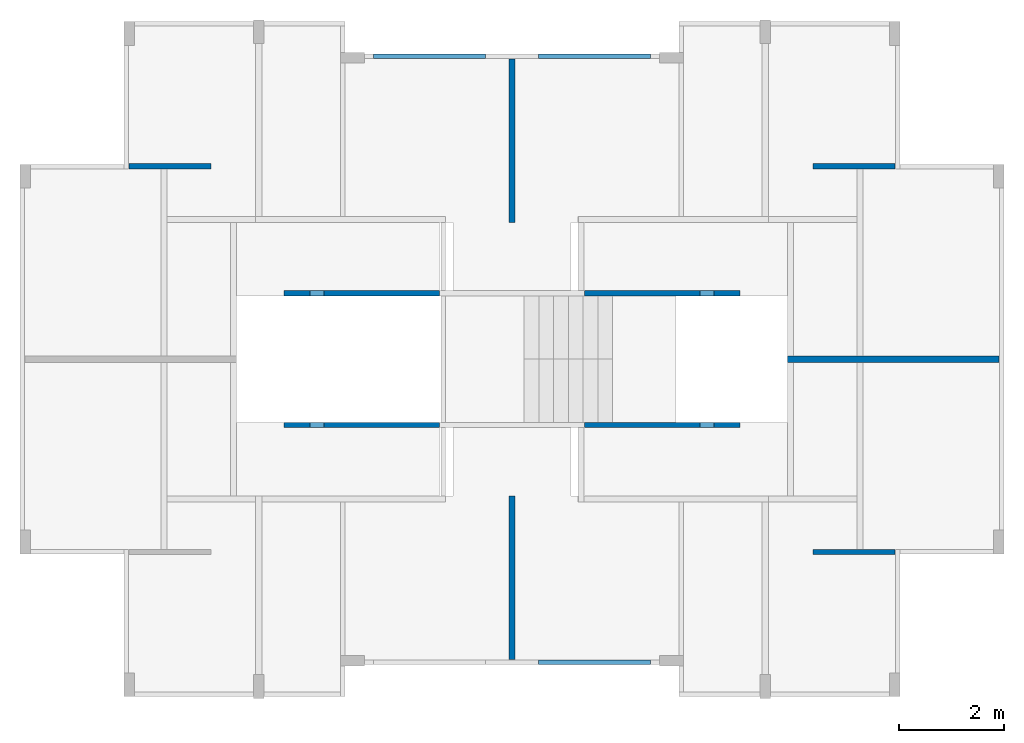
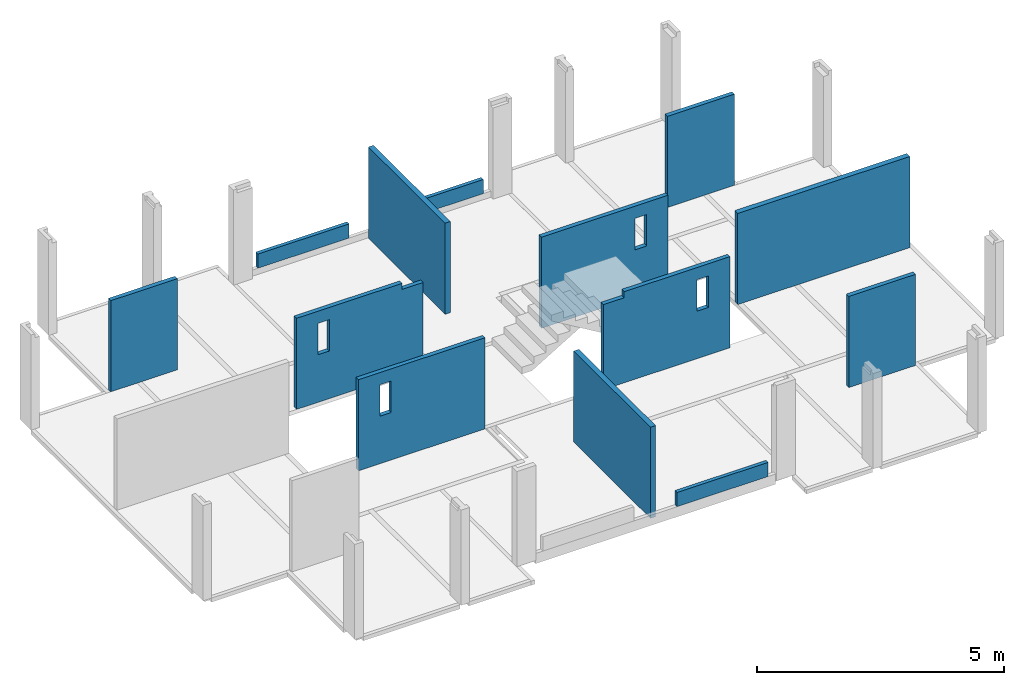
# One storey, part 4 of 6: 13 walls, 6 openings.
"""IFC4 building model written with IfcOpenShell, lengths in metres."""

from ifc_helpers import new_model, entity, si_unit, converted_unit, derived_unit, direction, frame, origin, place, context, subcontext, project, spatial, indexed_curve, outline, extrude, polygons, material, type_object, element, save


model = new_model("IFC4")

# Units and contexts
model_context = context("Model", 3, precision=1e-05, world=origin(), true_north=direction((6.123031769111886e-17, 1.0)))
body_context = subcontext(model_context, "Body", "Model", "MODEL_VIEW")
ifc_project = project(units=[si_unit("LENGTHUNIT", "METRE"), si_unit("AREAUNIT", "SQUARE_METRE"), si_unit("VOLUMEUNIT", "CUBIC_METRE"), converted_unit("PLANEANGLEUNIT", "DEGREE", entity("IfcRatioMeasure", 0.017453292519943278), si_unit("PLANEANGLEUNIT", "RADIAN"), dimensions=[0, 0, 0, 0, 0, 0, 0]), si_unit("MASSUNIT", "GRAM", prefix="KILO"), derived_unit("MASSDENSITYUNIT", [(si_unit("MASSUNIT", "GRAM", prefix="KILO"), 1), (si_unit("LENGTHUNIT", "METRE"), -3)]), derived_unit("IONCONCENTRATIONUNIT", [(si_unit("MASSUNIT", "GRAM", prefix="KILO"), 1), (si_unit("LENGTHUNIT", "METRE"), -3)]), derived_unit("MOMENTOFINERTIAUNIT", [(si_unit("LENGTHUNIT", "METRE"), 4)]), si_unit("TIMEUNIT", "SECOND"), si_unit("FREQUENCYUNIT", "HERTZ"), si_unit("THERMODYNAMICTEMPERATUREUNIT", "DEGREE_CELSIUS"), derived_unit("THERMALTRANSMITTANCEUNIT", [(si_unit("MASSUNIT", "GRAM", prefix="KILO"), 1), (si_unit("THERMODYNAMICTEMPERATUREUNIT", "KELVIN"), -1), (si_unit("TIMEUNIT", "SECOND"), -3)]), derived_unit("THERMALCONDUCTANCEUNIT", [(si_unit("MASSUNIT", "GRAM", prefix="KILO"), 1), (si_unit("THERMODYNAMICTEMPERATUREUNIT", "KELVIN"), -1), (si_unit("TIMEUNIT", "SECOND"), -3), (si_unit("LENGTHUNIT", "METRE"), 1)]), derived_unit("VOLUMETRICFLOWRATEUNIT", [(si_unit("LENGTHUNIT", "METRE"), 3), (si_unit("TIMEUNIT", "SECOND"), -1)]), derived_unit("MASSFLOWRATEUNIT", [(si_unit("MASSUNIT", "GRAM", prefix="KILO"), 1), (si_unit("TIMEUNIT", "SECOND"), -1)]), derived_unit("ROTATIONALFREQUENCYUNIT", [(si_unit("TIMEUNIT", "SECOND"), -1)]), si_unit("ELECTRICCURRENTUNIT", "AMPERE"), si_unit("ELECTRICVOLTAGEUNIT", "VOLT"), si_unit("POWERUNIT", "WATT"), si_unit("FORCEUNIT", "NEWTON", prefix="KILO"), si_unit("ILLUMINANCEUNIT", "LUX"), si_unit("LUMINOUSFLUXUNIT", "LUMEN"), si_unit("LUMINOUSINTENSITYUNIT", "CANDELA"), derived_unit("USERDEFINED", [(si_unit("MASSUNIT", "GRAM", prefix="KILO"), -1), (si_unit("LENGTHUNIT", "METRE"), -2), (si_unit("TIMEUNIT", "SECOND"), 3), (si_unit("LUMINOUSFLUXUNIT", "LUMEN"), 1)]), derived_unit("USERDEFINED", [(si_unit("MASSUNIT", "GRAM", prefix="KILO"), 1), (si_unit("TIMEUNIT", "SECOND"), -3), (si_unit("LENGTHUNIT", "METRE"), 3), (si_unit("ELECTRICCURRENTUNIT", "AMPERE"), -2)]), derived_unit("SOUNDPOWERUNIT", [(si_unit("MASSUNIT", "GRAM", prefix="KILO"), 1), (si_unit("TIMEUNIT", "SECOND"), -3), (si_unit("LENGTHUNIT", "METRE"), 2)]), derived_unit("SOUNDPRESSUREUNIT", [(si_unit("MASSUNIT", "GRAM", prefix="KILO"), 1), (si_unit("LENGTHUNIT", "METRE"), -1), (si_unit("TIMEUNIT", "SECOND"), -2)]), derived_unit("LINEARVELOCITYUNIT", [(si_unit("LENGTHUNIT", "METRE"), 1), (si_unit("TIMEUNIT", "SECOND"), -1)]), si_unit("PRESSUREUNIT", "PASCAL"), derived_unit("USERDEFINED", [(si_unit("MASSUNIT", "GRAM", prefix="KILO"), 1), (si_unit("LENGTHUNIT", "METRE"), -2), (si_unit("TIMEUNIT", "SECOND"), -2)]), derived_unit("LINEARFORCEUNIT", [(si_unit("MASSUNIT", "GRAM", prefix="KILO"), 1), (si_unit("TIMEUNIT", "SECOND"), -2)]), derived_unit("PLANARFORCEUNIT", [(si_unit("MASSUNIT", "GRAM", prefix="KILO"), 1), (si_unit("LENGTHUNIT", "METRE"), -1), (si_unit("TIMEUNIT", "SECOND"), -2)]), derived_unit("SPECIFICHEATCAPACITYUNIT", [(si_unit("THERMODYNAMICTEMPERATUREUNIT", "KELVIN"), -1), (si_unit("LENGTHUNIT", "METRE"), 2), (si_unit("TIMEUNIT", "SECOND"), -2)]), derived_unit("HEATINGVALUEUNIT", [(si_unit("LENGTHUNIT", "METRE"), 2), (si_unit("TIMEUNIT", "SECOND"), -2)]), derived_unit("VAPORPERMEABILITYUNIT", [(si_unit("LENGTHUNIT", "METRE"), -1), (si_unit("TIMEUNIT", "SECOND"), 1)]), derived_unit("DYNAMICVISCOSITYUNIT", [(si_unit("MASSUNIT", "GRAM", prefix="KILO"), 1), (si_unit("TIMEUNIT", "SECOND"), -1), (si_unit("LENGTHUNIT", "METRE"), -1)]), derived_unit("THERMALEXPANSIONCOEFFICIENTUNIT", [(si_unit("THERMODYNAMICTEMPERATUREUNIT", "KELVIN"), -1)]), derived_unit("MODULUSOFELASTICITYUNIT", [(si_unit("MASSUNIT", "GRAM", prefix="KILO"), 1), (si_unit("LENGTHUNIT", "METRE"), -1), (si_unit("TIMEUNIT", "SECOND"), -2)]), derived_unit("ISOTHERMALMOISTURECAPACITYUNIT", [(si_unit("LENGTHUNIT", "METRE"), 3), (si_unit("MASSUNIT", "GRAM", prefix="KILO"), -1)]), derived_unit("MOISTUREDIFFUSIVITYUNIT", [(si_unit("TIMEUNIT", "SECOND"), -1), (si_unit("LENGTHUNIT", "METRE"), 2)])], contexts=[model_context])

# Site, building, storey
site_placement = place(None, origin())
site = spatial("IfcSite", under=ifc_project, at=site_placement, Name="Default", CompositionType="ELEMENT")
building_placement = place(site_placement, origin())
building = spatial("IfcBuilding", under=site, at=building_placement, Name="Las nubes", CompositionType="ELEMENT")
storey_placement = place(building_placement, frame((0.0, 0.0, 4.700000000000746)))
storey = spatial("IfcBuildingStorey", under=building, at=storey_placement, Name="PISO 3", CompositionType="ELEMENT", Elevation=4.700000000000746)

# Walls
ifc_material_1 = material(Name="Concrete - Cast-in-Place Concrete - 35 MPa", Category="Materials")
wall_type_1 = type_object("IfcWallType", Name="Basic Wall:MURO 12cm", PredefinedType="STANDARD")
wall_1_placement = place(storey_placement, frame((9.322500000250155, -12.129999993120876, 0.0), z_axis=(0.0, 0.0, 1.0), x_axis=(0.0, 1.0, 0.0)))
element("IfcWall", 1, at=wall_1_placement, inside=storey, type_object=wall_type_1, material=ifc_material_1, Name="Basic Wall:MURO 12cm", ObjectType="Basic Wall:MURO 12cm", PredefinedType="NOTDEFINED", context=body_context, shape_type="SweptSolid", body=[
    extrude(outline(indexed_curve([(3.1050000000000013, 0.060000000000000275), (-1.0151879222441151e-16, 0.060000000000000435), (1.0151879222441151e-16, -0.060000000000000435), (3.1050000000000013, -0.0600000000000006), (3.1050000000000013, 0.060000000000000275)], self_intersect=False)), origin(), (0.0, 0.0, 1.0), 2.2499999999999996),
])
wall_2_placement = place(storey_placement, frame((9.322500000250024, -0.7200000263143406, 0.0), z_axis=(0.0, 0.0, 1.0), x_axis=(0.0, -1.0, 0.0)))
element("IfcWall", 2, at=wall_2_placement, inside=storey, type_object=wall_type_1, material=ifc_material_1, Name="Basic Wall:MURO 12cm", ObjectType="Basic Wall:MURO 12cm", PredefinedType="NOTDEFINED", context=body_context, shape_type="SweptSolid", body=[
    extrude(outline(indexed_curve([(3.105000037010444, 0.06000000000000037), (3.198205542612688e-17, 0.060000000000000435), (-3.198205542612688e-17, -0.060000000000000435), (3.105000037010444, -0.060000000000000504), (3.105000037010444, 0.06000000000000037)], self_intersect=False)), origin(), (0.0, 0.0, 1.0), 2.2499999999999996),
])
wall_3_placement = place(storey_placement, frame((18.57750000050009, -6.425000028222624, 0.0), z_axis=(0.0, 0.0, 1.0), x_axis=(-1.0, 0.0, 0.0)))
element("IfcWall", 3, at=wall_3_placement, inside=storey, type_object=wall_type_1, material=ifc_material_1, Name="Basic Wall:MURO 12cm", ObjectType="Basic Wall:MURO 12cm", PredefinedType="NOTDEFINED", context=body_context, shape_type="SweptSolid", body=[
    extrude(outline(indexed_curve([(4.01999999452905, 0.06000000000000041), (-1.934650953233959e-16, 0.060000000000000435), (1.934650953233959e-16, -0.060000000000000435), (4.01999999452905, -0.06000000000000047), (4.01999999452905, 0.06000000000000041)], self_intersect=False)), origin(), (0.0, 0.0, 1.0), 2.2499999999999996),
])
wall_type_2 = type_object("IfcWallType", Name="Basic Wall:MURO 10cm", PredefinedType="STANDARD")
wall_4_placement = place(storey_placement, frame((15.04250000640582, -10.090000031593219, 0.0)))
element("IfcWall", 4, at=wall_4_placement, inside=storey, type_object=wall_type_2, material=ifc_material_1, Name="Basic Wall:MURO 10cm", ObjectType="Basic Wall:MURO 10cm", PredefinedType="NOTDEFINED", context=body_context, shape_type="SweptSolid", body=[
    extrude(outline(indexed_curve([(1.5599999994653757, 0.049999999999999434), (-1.3794485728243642e-16, 0.04999999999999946), (1.3794485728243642e-16, -0.04999999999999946), (1.5599999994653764, -0.04999999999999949), (1.5599999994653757, 0.049999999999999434)], self_intersect=False)), origin(), (0.0, 0.0, 1.0), 2.2499999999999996),
])
wall_5_placement = place(storey_placement, frame((15.042500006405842, -2.7600000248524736, 0.0)))
element("IfcWall", 5, at=wall_5_placement, inside=storey, type_object=wall_type_2, material=ifc_material_1, Name="Basic Wall:MURO 10cm", ObjectType="Basic Wall:MURO 10cm", PredefinedType="NOTDEFINED", context=body_context, shape_type="SweptSolid", body=[
    extrude(outline(indexed_curve([(1.5600000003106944, 0.05), (-1.5618275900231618e-16, 0.05), (1.5618275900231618e-16, -0.05), (1.5600000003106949, -0.05), (1.5600000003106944, 0.05)], self_intersect=False)), origin(), (0.0, 0.0, 1.0), 2.2499999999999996),
])

# Wall, opening
wall_6_placement = place(storey_placement, frame((13.657500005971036, -5.17500002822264, 0.0), z_axis=(0.0, 0.0, 1.0), x_axis=(-1.0, 0.0, 0.0)))
wall_6 = element("IfcWall", 6, at=wall_6_placement, inside=storey, type_object=wall_type_2, material=ifc_material_1, Name="Basic Wall:MURO 10cm", ObjectType="Basic Wall:MURO 10cm", PredefinedType="NOTDEFINED", context=body_context, shape_type="Tessellation", body=[
    polygons([(4.2325258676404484e-16, -0.04999999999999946, 0.0), (2.455000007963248, -0.04999999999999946, 0.0), (2.955000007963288, -0.04999999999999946, 0.0), (2.955000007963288, -0.04999999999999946, 2.100000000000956), (2.955000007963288, -0.04999999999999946, 2.2499999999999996), (2.46500000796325, -0.04999999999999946, 2.2499999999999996), (4.2325258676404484e-16, -0.04999999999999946, 2.2499999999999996), (0.7651124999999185, -0.04999999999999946, 1.173712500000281), (0.4999999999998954, -0.04999999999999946, 1.173712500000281), (0.4999999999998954, -0.04999999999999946, 1.9500000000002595), (0.7651124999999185, -0.04999999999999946, 1.9500000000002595), (9.344534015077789e-17, 0.050000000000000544, 0.0), (9.344534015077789e-17, 0.050000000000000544, 2.2499999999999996), (2.4650000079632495, 0.050000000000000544, 2.2499999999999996), (2.9550000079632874, 0.050000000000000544, 2.2499999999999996), (2.9550000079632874, 0.050000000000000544, 2.100000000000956), (2.9550000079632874, 0.050000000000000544, 0.0), (2.4550000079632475, 0.050000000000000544, 0.0), (0.7651124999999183, 0.050000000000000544, 1.173712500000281), (0.7651124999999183, 0.050000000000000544, 1.9500000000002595), (0.4999999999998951, 0.050000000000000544, 1.9500000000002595), (0.4999999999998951, 0.050000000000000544, 1.173712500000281)], [[[1, 2, 3, 4, 5, 6, 7], [8, 9, 10, 11]], [[12, 13, 14, 15, 16, 17, 18], [19, 20, 21, 22]], [[3, 2, 1, 12, 18, 17]], [[5, 4, 3, 17, 16, 15]], [[7, 6, 5, 15, 14, 13]], [[1, 7, 13, 12]], [[9, 8, 19, 22]], [[10, 9, 22, 21]], [[11, 10, 21, 20]], [[8, 11, 20, 19]]], closed=True),
])
opening_1_placement = place(wall_6_placement, origin())
element("IfcOpeningElement", 7, at=opening_1_placement, cuts=wall_6, Name="Basic Wall:MURO 10cm", PredefinedType="OPENING", context=body_context, shape_type="SweptSolid", body=[
    extrude(outline(indexed_curve([(-0.3881437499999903, -0.1325562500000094), (0.3881437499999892, -0.1325562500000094), (0.3881437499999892, 0.13255625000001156), (-0.3881437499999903, 0.13255625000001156), (-0.3881437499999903, -0.1325562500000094)], self_intersect=False)), frame((0.6325562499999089, 0.04999999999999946, 1.5618562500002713), z_axis=(0.0, -1.0, 0.0), x_axis=(0.0, 0.0, 1.0)), (0.0, 0.0, 1.0), 0.1),
])

# Wall
wall_7_placement = place(storey_placement, frame((3.6024999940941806, -2.7600000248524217, 0.0), z_axis=(0.0, 0.0, 1.0), x_axis=(-1.0, 0.0, 0.0)))
element("IfcWall", 8, at=wall_7_placement, inside=storey, type_object=wall_type_2, material=ifc_material_1, Name="Basic Wall:MURO 10cm", ObjectType="Basic Wall:MURO 10cm", PredefinedType="NOTDEFINED", context=body_context, shape_type="SweptSolid", body=[
    extrude(outline(indexed_curve([(1.5600000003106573, 0.05), (-1.5618275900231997e-16, 0.05), (1.5618275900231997e-16, -0.05), (1.5600000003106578, -0.05), (1.5600000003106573, 0.05)], self_intersect=False)), origin(), (0.0, 0.0, 1.0), 2.2499999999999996),
])

# Wall, opening
wall_8_placement = place(storey_placement, frame((7.942500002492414, -7.675000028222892, 0.0), z_axis=(0.0, 0.0, 1.0), x_axis=(-1.0, 0.0, 0.0)))
wall_8 = element("IfcWall", 9, at=wall_8_placement, inside=storey, type_object=wall_type_2, material=ifc_material_1, Name="Basic Wall:MURO 10cm", ObjectType="Basic Wall:MURO 10cm", PredefinedType="NOTDEFINED", context=body_context, shape_type="Tessellation", body=[
    polygons([(3.4812988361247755e-16, -0.050000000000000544, 0.0), (0.5000000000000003, -0.050000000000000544, 0.0), (2.9550000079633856, -0.050000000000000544, 0.0), (2.9550000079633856, -0.050000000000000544, 2.2499999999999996), (0.4899999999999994, -0.050000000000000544, 2.2499999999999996), (3.4812988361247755e-16, -0.050000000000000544, 2.2499999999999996), (3.4812988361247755e-16, -0.050000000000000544, 2.100000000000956), (2.4550000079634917, -0.050000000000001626, 1.173712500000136), (2.189887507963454, -0.050000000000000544, 1.173712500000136), (2.189887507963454, -0.050000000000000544, 1.9500000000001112), (2.4550000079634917, -0.050000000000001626, 1.9500000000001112), (4.947108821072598e-16, 0.050000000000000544, 0.0), (4.94710882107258e-16, 0.04999999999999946, 2.100000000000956), (4.947108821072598e-16, 0.050000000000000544, 2.2499999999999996), (0.4900000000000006, 0.04999999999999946, 2.2499999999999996), (2.9550000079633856, 0.04999999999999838, 2.2499999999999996), (2.9550000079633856, 0.04999999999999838, 0.0), (0.5000000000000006, 0.04999999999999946, 0.0), (2.4550000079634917, 0.04999999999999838, 1.173712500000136), (2.4550000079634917, 0.04999999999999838, 1.9500000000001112), (2.1898875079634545, 0.04999999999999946, 1.9500000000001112), (2.1898875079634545, 0.04999999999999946, 1.173712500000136)], [[[1, 2, 3, 4, 5, 6, 7], [8, 9, 10, 11]], [[12, 13, 14, 15, 16, 17, 18], [19, 20, 21, 22]], [[3, 2, 1, 12, 18, 17]], [[4, 3, 17, 16]], [[6, 5, 4, 16, 15, 14]], [[1, 7, 6, 14, 13, 12]], [[9, 8, 19, 22]], [[10, 9, 22, 21]], [[11, 10, 21, 20]], [[8, 11, 20, 19]]], closed=True),
])
opening_2_placement = place(wall_8_placement, origin())
element("IfcOpeningElement", 10, at=opening_2_placement, cuts=wall_8, Name="Basic Wall:MURO 10cm", PredefinedType="OPENING", context=body_context, shape_type="SweptSolid", body=[
    extrude(outline(indexed_curve([(-0.38814374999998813, -0.13255625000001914), (0.388143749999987, -0.13255625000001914), (0.388143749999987, 0.13255625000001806), (-0.38814374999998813, 0.13255625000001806), (-0.38814374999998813, -0.13255625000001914)], self_intersect=False)), frame((2.3224437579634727, 0.050000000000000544, 1.561856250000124), z_axis=(0.0, -1.0, 0.0), x_axis=(0.0, 0.0, 1.0)), (0.0, 0.0, 1.0), 0.1),
])

# Wall, openings
wall_9_placement = place(storey_placement, frame((7.942500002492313, -5.175000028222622, 0.0), z_axis=(0.0, 0.0, 1.0), x_axis=(-1.0, 0.0, 0.0)))
wall_9 = element("IfcWall", 11, at=wall_9_placement, inside=storey, type_object=wall_type_2, material=ifc_material_1, Name="Basic Wall:MURO 10cm", ObjectType="Basic Wall:MURO 10cm", PredefinedType="NOTDEFINED", context=body_context, shape_type="Tessellation", body=[
    polygons([(2.9550000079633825, -0.04999999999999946, 2.2499999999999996), (0.4900000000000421, -0.04999999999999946, 2.2499999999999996), (0.4900000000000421, -0.04999999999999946, 2.099999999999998), (8.00730484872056e-16, -0.04999999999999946, 2.099999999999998), (8.00730484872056e-16, -0.04999999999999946, 0.0), (0.49999999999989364, -0.04999999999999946, 0.0), (2.9550000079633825, -0.04999999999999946, 0.0), (2.4550000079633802, -0.04999999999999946, 1.173712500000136), (2.1898875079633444, -0.04999999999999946, 1.173712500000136), (2.1898875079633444, -0.04999999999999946, 1.9500000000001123), (2.4550000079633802, -0.04999999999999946, 1.9500000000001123), (2.9550000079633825, 0.050000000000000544, 2.2499999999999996), (2.9550000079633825, 0.050000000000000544, 0.0), (0.4999999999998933, 0.050000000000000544, 0.0), (4.78288660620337e-16, 0.050000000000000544, 0.0), (4.78288660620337e-16, 0.050000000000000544, 2.099999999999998), (0.4900000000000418, 0.050000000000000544, 2.099999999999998), (0.4900000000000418, 0.050000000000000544, 2.2499999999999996), (2.4550000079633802, 0.050000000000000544, 1.173712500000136), (2.4550000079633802, 0.050000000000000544, 1.9500000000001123), (2.189887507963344, 0.050000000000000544, 1.9500000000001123), (2.189887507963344, 0.050000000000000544, 1.173712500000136)], [[[1, 2, 3, 4, 5, 6, 7], [8, 9, 10, 11]], [[12, 13, 14, 15, 16, 17, 18], [19, 20, 21, 22]], [[2, 1, 12, 18]], [[4, 3, 17, 16]], [[3, 2, 18, 17]], [[1, 7, 13, 12]], [[5, 4, 16, 15]], [[7, 6, 5, 15, 14, 13]], [[9, 8, 19, 22]], [[10, 9, 22, 21]], [[11, 10, 21, 20]], [[8, 11, 20, 19]]], closed=True),
])
opening_3_placement = place(wall_9_placement, origin())
element("IfcOpeningElement", 12, at=opening_3_placement, cuts=wall_9, Name="Basic Wall:MURO 10cm", PredefinedType="OPENING", context=body_context, shape_type="SweptSolid", body=[
    extrude(outline(indexed_curve([(-0.38814374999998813, -0.13255625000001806), (0.38814374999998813, -0.13255625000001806), (0.38814374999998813, 0.13255625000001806), (-0.38814374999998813, 0.13255625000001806), (-0.38814374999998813, -0.13255625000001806)], self_intersect=False)), frame((2.322443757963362, 0.050000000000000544, 1.561856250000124), z_axis=(0.0, -1.0, 0.0), x_axis=(0.0, 0.0, 1.0)), (0.0, 0.0, 1.0), 0.1),
])
opening_4_placement = place(wall_9_placement, origin())
element("IfcOpeningElement", 13, at=opening_4_placement, cuts=wall_9, Name="Basic Wall:MURO 10cm", PredefinedType="OPENING", context=body_context, shape_type="SweptSolid", body=[
    extrude(outline(indexed_curve([(-0.2450000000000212, -0.07500000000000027), (0.2450000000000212, -0.07500000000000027), (0.2450000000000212, 0.07500000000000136), (-0.2450000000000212, 0.07500000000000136), (-0.2450000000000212, -0.07500000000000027)], self_intersect=False)), frame((0.2450000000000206, 0.04999999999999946, 2.1749999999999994), z_axis=(0.0, -1.0, 0.0), x_axis=(-1.0, 0.0, 0.0)), (0.0, 0.0, 1.0), 0.1),
])

wall_10_placement = place(storey_placement, frame((10.702499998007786, -7.675000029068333, 0.0)))
wall_10 = element("IfcWall", 14, at=wall_10_placement, inside=storey, type_object=wall_type_2, material=ifc_material_1, Name="Basic Wall:MURO 10cm", ObjectType="Basic Wall:MURO 10cm", PredefinedType="NOTDEFINED", context=body_context, shape_type="Tessellation", body=[
    polygons([(2.9550000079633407, -0.050000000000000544, 2.2499999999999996), (0.4900000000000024, -0.050000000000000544, 2.2499999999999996), (0.4900000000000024, -0.050000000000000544, 2.099999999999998), (1.159822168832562e-15, -0.050000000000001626, 2.099999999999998), (1.159822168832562e-15, -0.050000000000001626, 0.0), (2.9550000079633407, -0.050000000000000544, 0.0), (2.1898875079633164, -0.04999999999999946, 1.173712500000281), (2.1898875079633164, -0.04999999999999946, 1.9500000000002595), (2.455000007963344, -0.04999999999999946, 1.9500000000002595), (2.455000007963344, -0.04999999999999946, 1.173712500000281), (2.9550000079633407, 0.04999999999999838, 2.2499999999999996), (2.9550000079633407, 0.04999999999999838, 0.0), (9.765959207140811e-16, 0.04999999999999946, 0.0), (9.765959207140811e-16, 0.04999999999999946, 2.099999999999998), (0.49000000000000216, 0.050000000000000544, 2.099999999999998), (0.49000000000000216, 0.050000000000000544, 2.2499999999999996), (2.1898875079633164, 0.04999999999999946, 1.173712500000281), (2.455000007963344, 0.04999999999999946, 1.173712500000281), (2.455000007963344, 0.04999999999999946, 1.9500000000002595), (2.1898875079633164, 0.04999999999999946, 1.9500000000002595)], [[[1, 2, 3, 4, 5, 6], [7, 8, 9, 10]], [[11, 12, 13, 14, 15, 16], [17, 18, 19, 20]], [[2, 1, 11, 16]], [[4, 3, 15, 14]], [[3, 2, 16, 15]], [[1, 6, 12, 11]], [[5, 4, 14, 13]], [[6, 5, 13, 12]], [[8, 7, 17, 20]], [[9, 8, 20, 19]], [[10, 9, 19, 18]], [[7, 10, 18, 17]]], closed=True),
])
opening_5_placement = place(wall_10_placement, origin())
element("IfcOpeningElement", 15, at=opening_5_placement, cuts=wall_10, Name="Basic Wall:MURO 10cm", PredefinedType="OPENING", context=body_context, shape_type="SweptSolid", body=[
    extrude(outline(indexed_curve([(-0.1325562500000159, -0.3881437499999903), (0.13255625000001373, -0.3881437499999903), (0.13255625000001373, 0.3881437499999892), (-0.1325562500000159, 0.3881437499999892), (-0.1325562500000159, -0.3881437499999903)], self_intersect=False)), frame((2.3224437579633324, 0.050000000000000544, 1.5618562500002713), z_axis=(0.0, -1.0, 0.0), x_axis=(1.0, 0.0, 0.0)), (0.0, 0.0, 1.0), 0.1),
])
opening_6_placement = place(wall_10_placement, origin())
element("IfcOpeningElement", 16, at=opening_6_placement, cuts=wall_10, Name="Basic Wall:MURO 10cm", PredefinedType="OPENING", context=body_context, shape_type="SweptSolid", body=[
    extrude(outline(indexed_curve([(-0.2450000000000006, -0.07500000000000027), (0.2450000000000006, -0.07500000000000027), (0.2450000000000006, 0.07500000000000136), (-0.2450000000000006, 0.07500000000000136), (-0.2450000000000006, -0.07500000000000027)], self_intersect=False)), frame((0.2450000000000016, 0.050000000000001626, 2.1749999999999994), z_axis=(0.0, -1.0, 0.0), x_axis=(-1.0, 0.0, 0.0)), (0.0, 0.0, 1.0), 0.1),
])

# Walls
ifc_material_2 = material(Name="Concrete - Cast-in-Place Concrete - 28 MPa SLAB", Category="Materials")
wall_type_3 = type_object("IfcWallType", Name="Basic Wall:MURO .085cm", PredefinedType="STANDARD")
wall_11_placement = place(storey_placement, frame((9.827500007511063, -12.182500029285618, 0.1500000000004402)))
element("IfcWall", 17, at=wall_11_placement, inside=storey, type_object=wall_type_3, material=ifc_material_2, Name="Basic Wall:MURO .085cm", ObjectType="Basic Wall:MURO .085cm", PredefinedType="NOTDEFINED", context=body_context, shape_type="SweptSolid", body=[
    extrude(outline(indexed_curve([(2.1249999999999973, 0.04249999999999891), (-1.7146162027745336e-16, 0.042499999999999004), (1.7146162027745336e-16, -0.042499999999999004), (2.1249999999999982, -0.042499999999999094), (2.1249999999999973, 0.04249999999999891)], self_intersect=False)), origin(), (0.0, 0.0, 1.0), 0.35000000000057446),
])
wall_12_placement = place(storey_placement, frame((6.692499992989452, -0.6675000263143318, 0.1500000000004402)))
element("IfcWall", 18, at=wall_12_placement, inside=storey, type_object=wall_type_3, material=ifc_material_2, Name="Basic Wall:MURO .085cm", ObjectType="Basic Wall:MURO .085cm", PredefinedType="NOTDEFINED", context=body_context, shape_type="SweptSolid", body=[
    extrude(outline(indexed_curve([(2.1250000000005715, 0.04249999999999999), (-1.7146162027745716e-16, 0.04249999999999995), (1.7146162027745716e-16, -0.04249999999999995), (2.125000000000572, -0.042499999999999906), (2.1250000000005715, 0.04249999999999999)], self_intersect=False)), origin(), (0.0, 0.0, 1.0), 0.35000000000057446),
])
wall_13_placement = place(storey_placement, frame((9.82750000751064, -0.6675000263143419, 0.1500000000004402)))
element("IfcWall", 19, at=wall_13_placement, inside=storey, type_object=wall_type_3, material=ifc_material_2, Name="Basic Wall:MURO .085cm", ObjectType="Basic Wall:MURO .085cm", PredefinedType="NOTDEFINED", context=body_context, shape_type="SweptSolid", body=[
    extrude(outline(indexed_curve([(2.1249999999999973, 0.04249999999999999), (-1.7146162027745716e-16, 0.04249999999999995), (1.7146162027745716e-16, -0.04249999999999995), (2.1249999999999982, -0.042499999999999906), (2.1249999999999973, 0.04249999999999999)], self_intersect=False)), origin(), (0.0, 0.0, 1.0), 0.35000000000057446),
])

save(model, "model.ifc")
